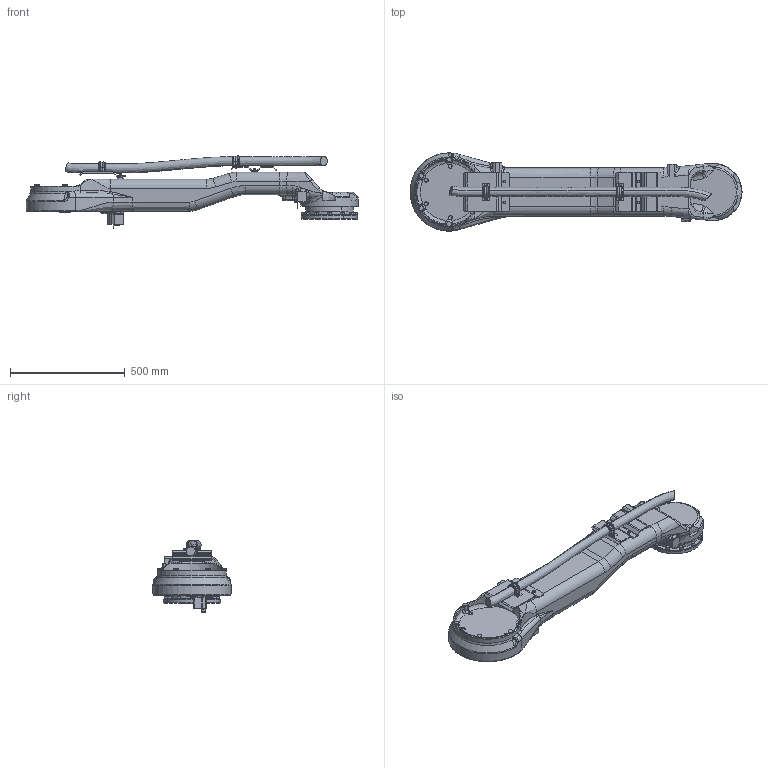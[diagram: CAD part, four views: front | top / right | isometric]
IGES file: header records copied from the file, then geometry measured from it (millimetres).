
Start section:  PTC IGES file: l_axis_gp20hl.igs
Global section: file name: l_axis_gp20hl.igs; native system: Creo Parametric by Parametric Technology Corporation; preprocessor: 2015030; author: ip-naka; organization: Unknown; date: 20190410.110640; units: millimetre
Bounding box: 1445 x 339.99 x 316.9 mm (x, y, z)
Volume: 37484483.1 mm3; surface area: 1410796.1 mm2
Topology: 1 solids, 1 shells, 993 faces, 2483 edges, 1545 vertices
Faces by surface type: bspline 541, revolution 448, extrusion 4
